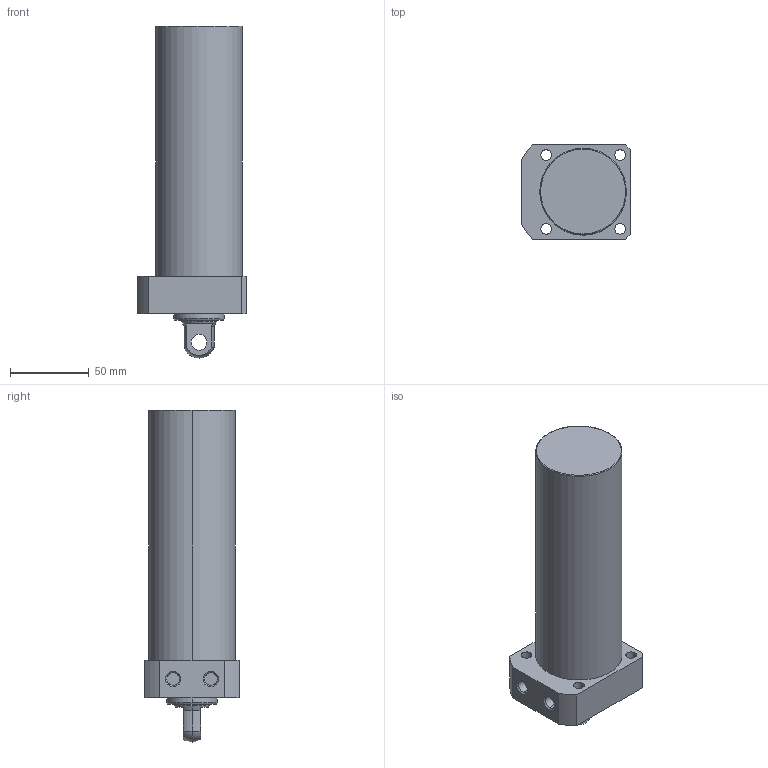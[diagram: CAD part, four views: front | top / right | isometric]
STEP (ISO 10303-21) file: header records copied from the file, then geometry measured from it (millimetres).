
FILE_DESCRIPTION (( 'STEP AP203' ), '1' );
FILE_NAME ('CLLR-055CP-130.STEP', '2019-12-17T12:40:27', ( '' ), ( '' ), 'SwSTEP 2.0', 'SolidWorks 2015', '' );
FILE_SCHEMA (( 'CONFIG_CONTROL_DESIGN' ));
Length unit declared in the file: millimetre
Products named in the file (1): CLLR-055CP-130
Bounding box: 69 x 60 x 211 mm (x, y, z)
Volume: 477280.7 mm3; surface area: 45691.3 mm2
Topology: 1 solids, 1 shells, 59 faces, 139 edges, 89 vertices
Faces by surface type: cylinder 29, plane 18, cone 8, torus 2, sphere 2
Entity records: 1822 total; most frequent: DIRECTION 331, CARTESIAN_POINT 300, ORIENTED_EDGE 278, EDGE_CURVE 139, AXIS2_PLACEMENT_3D 136, VERTEX_POINT 89, CIRCLE 76, EDGE_LOOP 76
